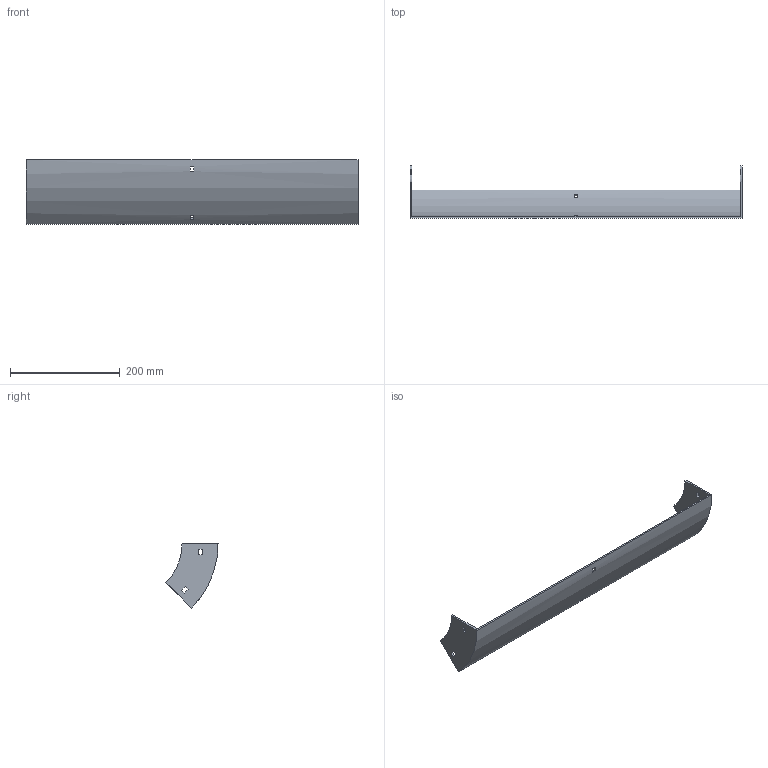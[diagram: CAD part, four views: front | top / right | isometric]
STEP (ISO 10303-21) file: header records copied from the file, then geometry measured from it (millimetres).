
FILE_DESCRIPTION (( 'STEP AP214' ), '1' );
FILE_NAME ('31B1H600.step', '2025-02-21T09:47:26', ( '' ), ( '' ), 'SwSTEP 2.0', 'SolidWorks 2023', '' );
FILE_SCHEMA (( 'AUTOMOTIVE_DESIGN' ));
Length unit declared in the file: millimetre
Products named in the file (1): 31B1H600
Bounding box: 604 x 94.79 x 117.03 mm (x, y, z)
Volume: 315140.7 mm3; surface area: 186430 mm2
Topology: 1 solids, 1 shells, 34 faces, 96 edges, 64 vertices
Faces by surface type: plane 30, cylinder 4
Entity records: 1143 total; most frequent: CARTESIAN_POINT 195, ORIENTED_EDGE 192, DIRECTION 182, EDGE_CURVE 96, VECTOR 80, LINE 80, VERTEX_POINT 64, AXIS2_PLACEMENT_3D 51
